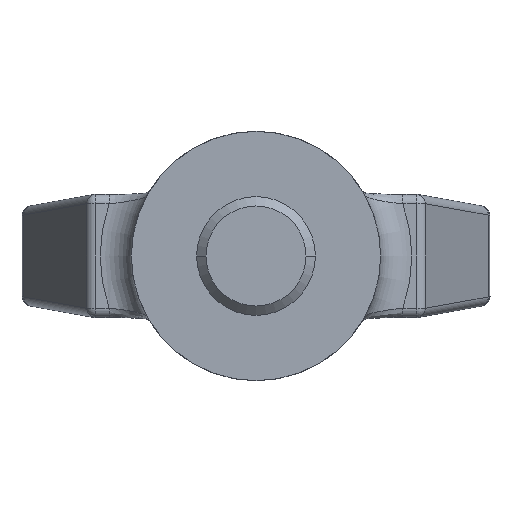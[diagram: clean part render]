
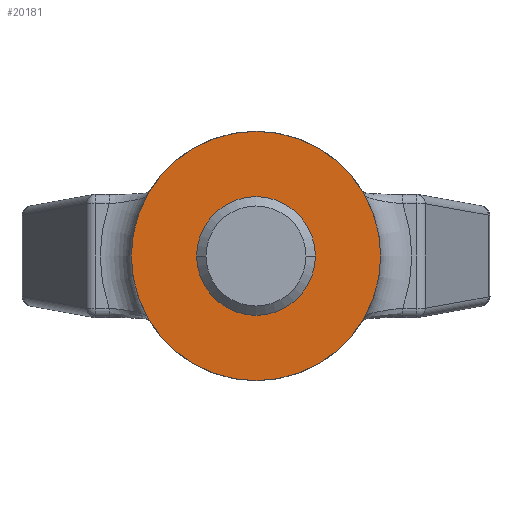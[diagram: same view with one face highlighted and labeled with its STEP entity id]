
A CAD part, front view. The second image highlights one B-rep face of the part: STEP entity #20181.
In plain terms, the highlighted planar face has unit normal (0, -1, 0).
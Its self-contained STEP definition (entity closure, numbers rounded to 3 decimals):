
#7084=CARTESIAN_POINT('',(0.,-35.,0.));
#7085=DIRECTION('',(0.,-1.,0.));
#7086=DIRECTION('',(-1.,0.,0.));
#7087=AXIS2_PLACEMENT_3D('',#7084,#7085,#7086);
#7089=CARTESIAN_POINT('',(0.,-35.,0.));
#7090=DIRECTION('',(0.,1.,0.));
#7091=DIRECTION('',(-1.,0.,0.));
#7092=AXIS2_PLACEMENT_3D('',#7089,#7090,#7091);
#7144=CARTESIAN_POINT('',(-20.,-35.,0.));
#7145=CARTESIAN_POINT('',(20.,-35.,0.));
#7146=VERTEX_POINT('',#7144);
#7147=VERTEX_POINT('',#7145);
#20172=CARTESIAN_POINT('',(0.,-35.,0.));
#20173=DIRECTION('',(0.,1.,0.));
#20174=DIRECTION('',(1.,0.,0.));
#20175=AXIS2_PLACEMENT_3D('',#20172,#20173,#20174);
#20176=PLANE('',#20175);
#20177=ORIENTED_EDGE('',*,*,#10552,.F.);
#20178=ORIENTED_EDGE('',*,*,#9325,.T.);
#20179=EDGE_LOOP('',(#20177,#20178));
#20180=FACE_OUTER_BOUND('',#20179,.F.);
#20181=ADVANCED_FACE('',(#20180),#20176,.F.);
#7088=CIRCLE('',#7087,20.);
#7093=CIRCLE('',#7092,20.);
#9325=EDGE_CURVE('',#7146,#7147,#7093,.T.);
#10552=EDGE_CURVE('',#7146,#7147,#7088,.T.);
